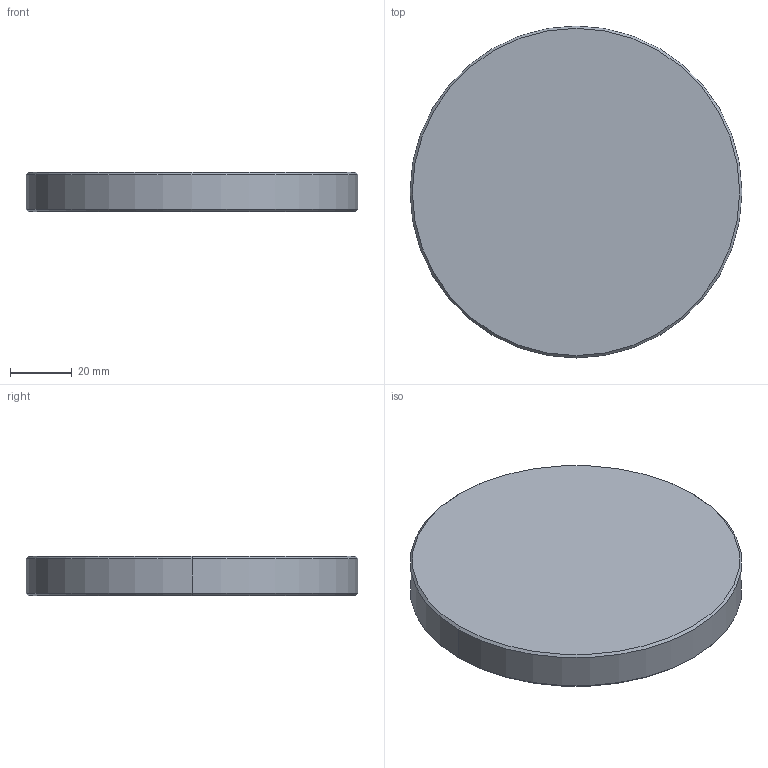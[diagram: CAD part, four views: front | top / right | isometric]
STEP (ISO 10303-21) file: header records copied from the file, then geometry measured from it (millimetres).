
FILE_DESCRIPTION((''),'2;1');
FILE_NAME('RMC-6002','2007-09-24T',('glafferty'),('Pleasant Precision, Inc. (419)675-0556'),'PRO/ENGINEER BY PARAMETRIC TECHNOLOGY CORPORATION, 2006080','PRO/ENGINEER BY PARAMETRIC TECHNOLOGY CORPORATION, 2006080','');
FILE_SCHEMA(('CONFIG_CONTROL_DESIGN'));
Length unit declared in the file: inch
Products named in the file (1): RMC-6002
Bounding box: 107.95 x 107.95 x 12.7 mm (x, y, z)
Volume: 106744.7 mm3; surface area: 22670.1 mm2
Topology: 1 solids, 1 shells, 13 faces, 24 edges, 14 vertices
Faces by surface type: cone 6, cylinder 4, plane 3
Entity records: 364 total; most frequent: DIRECTION 64, CARTESIAN_POINT 51, ORIENTED_EDGE 48, AXIS2_PLACEMENT_3D 27, EDGE_CURVE 24, VERTEX_POINT 14, EDGE_LOOP 14, CIRCLE 14
